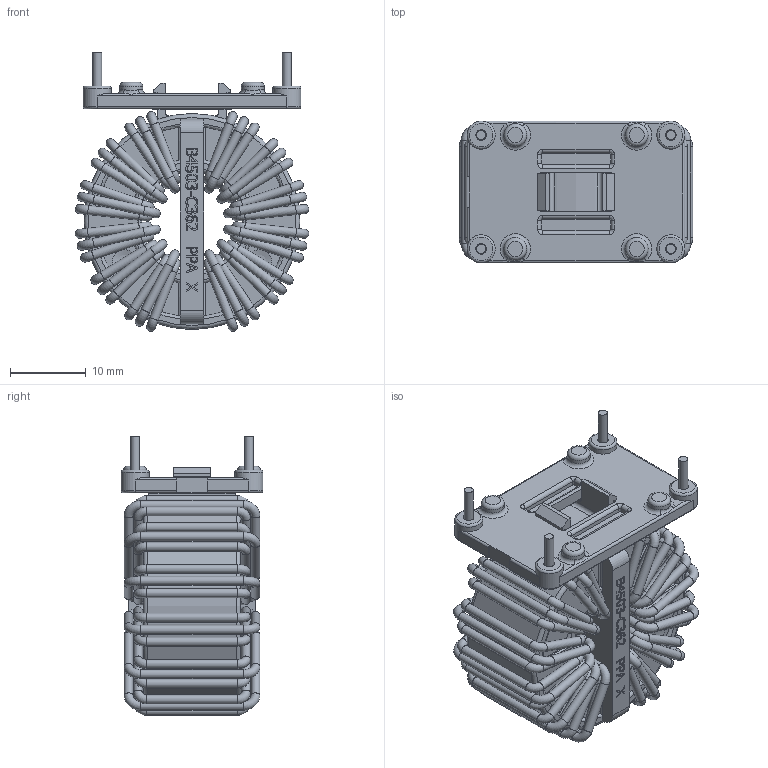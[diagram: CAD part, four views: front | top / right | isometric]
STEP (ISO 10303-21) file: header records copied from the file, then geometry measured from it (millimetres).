
FILE_DESCRIPTION(/* description */ (''),/* implementation_level */ '2;1');
FILE_NAME(/* name */ 'G:\KB-FTKon\CAD\Inventor\Bauelementnummer\6127-X011\6127-X011_Shrinkwrap_1.stp',/* time_stamp */ '2019-04-30T10:56:26+02:00',/* author */ ('de041100'),/* organization */ (''),/* preprocessor_version */ 'ST-DEVELOPER v17.2',/* originating_system */ 'Autodesk Inventor 2019',/* authorisation */ '');
FILE_SCHEMA (('AUTOMOTIVE_DESIGN { 1 0 10303 214 3 1 1 }'));
Length unit declared in the file: millimetre
Products named in the file (1): 6127-X011_Shrinkwrap_1
Bounding box: 30.78 x 18.7 x 36.72 mm (x, y, z)
Volume: 9730.4 mm3; surface area: 11668.7 mm2
Topology: 27 solids, 27 shells, 1424 faces, 4166 edges, 2792 vertices
Faces by surface type: plane 557, bspline 382, cylinder 271, torus 204, sphere 6, cone 4
Full cylindrical faces by diameter (mm): 1.18 x134, 1.4 x4, 3 x4, 3.7 x4, 13.2 x1, 14.4 x1, 27.2 x1, 28.4 x1
Entity records: 53224 total; most frequent: CARTESIAN_POINT 15346, ORIENTED_EDGE 8326, DIRECTION 6613, EDGE_CURVE 4163, VERTEX_POINT 2796, AXIS2_PLACEMENT_3D 2309, LINE 1995, VECTOR 1995
